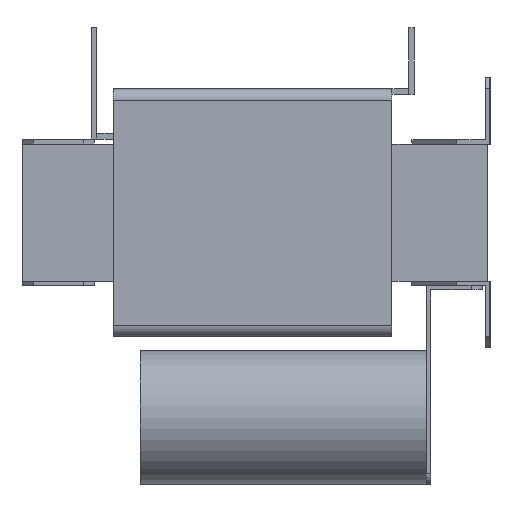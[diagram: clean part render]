
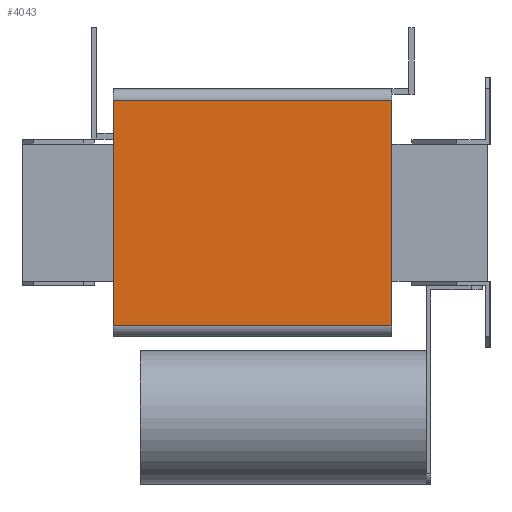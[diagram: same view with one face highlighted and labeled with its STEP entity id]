
A CAD part, left-side view. The second image highlights one B-rep face of the part: STEP entity #4043.
In plain terms, the highlighted planar face has unit normal (-1, 0, 0).
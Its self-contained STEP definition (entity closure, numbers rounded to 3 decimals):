
#361=FACE_OUTER_BOUND('',#613,.T.);
#613=EDGE_LOOP('',(#3115,#3116,#3117,#3118));
#959=LINE('',#6171,#1415);
#964=LINE('',#6190,#1420);
#968=LINE('',#6204,#1424);
#971=LINE('',#6210,#1427);
#1415=VECTOR('',#5011,10.);
#1420=VECTOR('',#5028,10.);
#1424=VECTOR('',#5040,10.);
#1427=VECTOR('',#5049,10.);
#1847=VERTEX_POINT('',#6169);
#1848=VERTEX_POINT('',#6170);
#1856=VERTEX_POINT('',#6188);
#1862=VERTEX_POINT('',#6202);
#2295=EDGE_CURVE('',#1847,#1848,#959,.T.);
#2305=EDGE_CURVE('',#1856,#1847,#964,.T.);
#2312=EDGE_CURVE('',#1856,#1862,#968,.T.);
#2315=EDGE_CURVE('',#1848,#1862,#971,.T.);
#3115=ORIENTED_EDGE('',*,*,#2305,.F.);
#3116=ORIENTED_EDGE('',*,*,#2312,.T.);
#3117=ORIENTED_EDGE('',*,*,#2315,.F.);
#3118=ORIENTED_EDGE('',*,*,#2295,.F.);
#3833=PLANE('',#4381);
#4043=ADVANCED_FACE('',(#361),#3833,.T.);
#4381=AXIS2_PLACEMENT_3D('',#6216,#5057,#5058);
#5011=DIRECTION('',(0.,0.,1.));
#5028=DIRECTION('',(0.,1.,0.));
#5040=DIRECTION('',(0.,0.,1.));
#5049=DIRECTION('',(0.,-1.,0.));
#5057=DIRECTION('center_axis',(-1.,0.,0.));
#5058=DIRECTION('ref_axis',(0.,0.,1.));
#6169=CARTESIAN_POINT('',(-205.5,338.,-101.));
#6170=CARTESIAN_POINT('',(-205.5,338.,101.));
#6171=CARTESIAN_POINT('',(-205.5,338.,-101.));
#6188=CARTESIAN_POINT('',(-205.5,88.,-101.));
#6190=CARTESIAN_POINT('',(-205.5,88.,-101.));
#6202=CARTESIAN_POINT('',(-205.5,88.,101.));
#6204=CARTESIAN_POINT('',(-205.5,88.,-111.));
#6210=CARTESIAN_POINT('',(-205.5,88.,101.));
#6216=CARTESIAN_POINT('Origin',(-205.5,88.,-111.));
